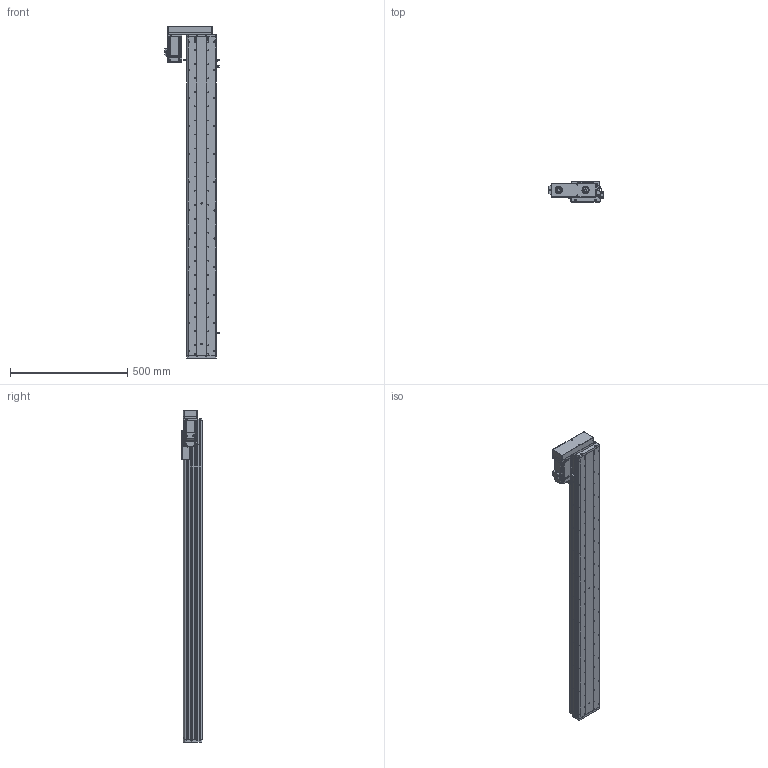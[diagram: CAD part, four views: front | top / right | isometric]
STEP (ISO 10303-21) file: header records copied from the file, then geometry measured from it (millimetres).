
FILE_DESCRIPTION (( 'STEP AP214' ), '1' );
FILE_NAME ('KSD125S-S1150-ML-CM.STEP', '2017-10-21T08:45:38', ( '微软用户' ), ( '微软中国' ), 'SwSTEP 2.0', 'SolidWorks 2014', '' );
FILE_SCHEMA (( 'AUTOMOTIVE_DESIGN' ));
Length unit declared in the file: millimetre
Products named in the file (16): KSD125S-S1150-ML-CM; 覜茼え68遵圉猾敕; HTPA30S3M150_A_H6_a佪裝蚚; HTPA30S3M150_A_H6_a萇儂蚚; 125宽马达安装板连板左右折丝杆; 125悵誘欶酘衵殏; KSD125S-1150俴最佪裝滅鳥裔; KSD125S-1150俴最佪裝菁啣; KSD125-賑雄釱1; MHMD042G1CA_2_03; 拸萇儂釱滅袉菜; 拸萇儂釱滅袉菜-1; U倰嫖萇假蚾璃; U倰嫖萇EEㄜSX672; ヶ傷啣-125遵耀郪; 125-帣傷啣1
Assembly tree (20 placements, depth 2):
  KSD125S-S1150-ML-CM
    125-帣傷啣1
    ヶ傷啣-125遵耀郪
    U倰嫖萇EEㄜSX672  x4
    U倰嫖萇假蚾璃  x3
    拸萇儂釱滅袉菜-1
    拸萇儂釱滅袉菜
    MHMD042G1CA_2_03
    KSD125-賑雄釱1
    KSD125S-1150俴最佪裝菁啣
    KSD125S-1150俴最佪裝滅鳥裔
    125悵誘欶酘衵殏
    125宽马达安装板连板左右折丝杆
    HTPA30S3M150_A_H6_a萇儂蚚
    HTPA30S3M150_A_H6_a佪裝蚚
    覜茼え68遵圉猾敕
Bounding box: 234.2 x 86 x 1417.5 mm (x, y, z)
Volume: 4376357.6 mm3; surface area: 1468674.6 mm2
Topology: 19 solids, 22 shells, 2387 faces, 6921 edges, 4569 vertices
Faces by surface type: cylinder 1484, plane 762, cone 119, bspline 22
Entity records: 81169 total; most frequent: CARTESIAN_POINT 16442, DIRECTION 12659, ORIENTED_EDGE 11786, EDGE_CURVE 5971, AXIS2_PLACEMENT_3D 4912, VERTEX_POINT 3973, CIRCLE 2843, VECTOR 2835
